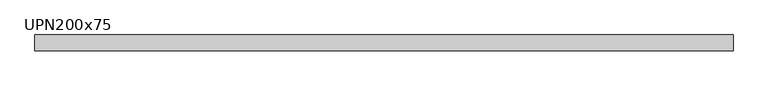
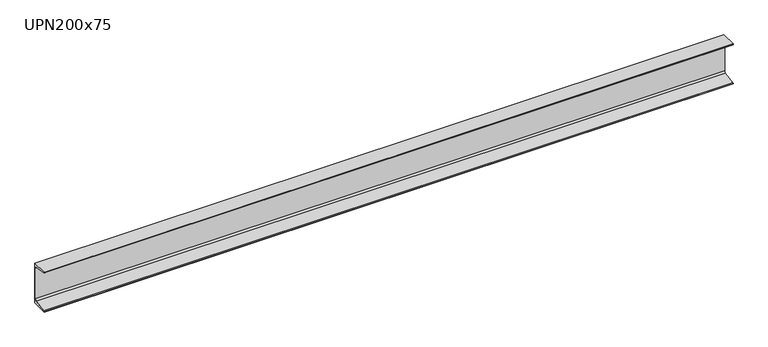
"""IFC4 building model written with IfcOpenShell, lengths in millimetres: beam geometry, M_MC Shapes : UPN200x75."""

import ifcopenshell
import ifcopenshell.guid

model = None  # the IFC model being written
_history = None  # IfcOwnerHistory: only IFC2X3 demands one
_inside = {}  # id of a spatial element -> (the spatial element, [elements in it])
_under = {}  # id of a project, library or spatial element -> (it, [spatial elements below it])
_declared = {}  # id of a project -> (the project, [libraries it declares])
_typed = {}  # id of a type object -> (the type object, [elements of that type])
_made_of = {}  # id of a material, layer set ... -> (it, [elements and type objects made of it])


def new_model(schema):
    """Start an empty IFC model of exactly this schema.

    Asked for "IFC4X3", IfcOpenShell would pick the latest addendum, in which some entities
    have other attributes; the version numbers below select the first issue.
    IFC2X3 requires an IfcOwnerHistory on every rooted entity: one is made here for all.
    """
    global model, _history
    if schema == "IFC4X3":
        model = ifcopenshell.file(schema_version=(4, 3, 0, 0))
    else:
        model = ifcopenshell.file(schema=schema)
    _inside.clear()
    _under.clear()
    _declared.clear()
    _typed.clear()
    _made_of.clear()
    _history = None
    if model.schema == "IFC2X3":
        org = make("IfcOrganization", Name="unknown")
        user = make(
            "IfcPersonAndOrganization",
            ThePerson=make("IfcPerson", FamilyName="unknown"),
            TheOrganization=org,
        )
        app = make(
            "IfcApplication",
            ApplicationDeveloper=org,
            Version="unknown",
            ApplicationFullName="unknown",
            ApplicationIdentifier="unknown",
        )
        _history = make(
            "IfcOwnerHistory",
            OwningUser=user,
            OwningApplication=app,
            ChangeAction="ADDED",
            CreationDate=0,
        )
    return model


def make(cls, **values):
    """One entity of the class cls with the attributes given. An attribute that is None is left unset."""
    return model.create_entity(
        cls, **{name: value for name, value in values.items() if value is not None}
    )


def rooted(cls, **values):
    """An entity with a GlobalId (a new one), such as an element, a storey or a relation."""
    return make(cls, GlobalId=ifcopenshell.guid.new(), OwnerHistory=_history, **values)


def si_unit(unit_type, name, prefix=None):
    """IfcSIUnit, for example si_unit("LENGTHUNIT", "METRE", prefix="MILLI")."""
    return make("IfcSIUnit", UnitType=unit_type, Prefix=prefix, Name=name)


def assignment(units):
    """IfcUnitAssignment: the units of a project."""
    return None if units is None else make("IfcUnitAssignment", Units=units)


def point(xyz):
    """IfcCartesianPoint."""
    return None if xyz is None else make("IfcCartesianPoint", Coordinates=xyz)


def direction(xyz):
    """IfcDirection."""
    return None if xyz is None else make("IfcDirection", DirectionRatios=xyz)


def frame(location, z_axis=None, x_axis=None):
    """IfcAxis2Placement3D, a coordinate frame: its origin and axes. An axis left out is left unset."""
    return make(
        "IfcAxis2Placement3D",
        Location=point(location),
        Axis=direction(z_axis),
        RefDirection=direction(x_axis),
    )


def frame_2d(location, x_axis=None):
    """IfcAxis2Placement2D, a coordinate frame in the plane: its origin and x axis."""
    return make(
        "IfcAxis2Placement2D", Location=point(location), RefDirection=direction(x_axis)
    )


def origin():
    """The frame at (0, 0, 0) with its axes left unset."""
    return frame((0.0, 0.0, 0.0))


def place(relative_to, where):
    """IfcLocalPlacement: puts the frame where relative to a parent placement (None: the world)."""
    return make(
        "IfcLocalPlacement", PlacementRelTo=relative_to, RelativePlacement=where
    )


def context(
    kind, dimensions, precision=None, world=None, true_north=None, identifier=None
):
    """IfcGeometricRepresentationContext, for example the 3D "Model" context."""
    return make(
        "IfcGeometricRepresentationContext",
        ContextIdentifier=identifier,
        ContextType=kind,
        CoordinateSpaceDimension=dimensions,
        Precision=precision,
        WorldCoordinateSystem=world,
        TrueNorth=true_north,
    )


def project(units=None, contexts=None):
    """IfcProject with its units and contexts."""
    return rooted(
        "IfcProject",
        Name="project",
        RepresentationContexts=contexts,
        UnitsInContext=assignment(units),
    )


def spatial(cls, under=None, at=None, **own):
    """A site, building, storey or space (cls), placed at a placement, below another one or the project."""
    s = rooted(cls, ObjectPlacement=at, **own)
    if under is not None:
        _under.setdefault(under.id(), (under, []))[1].append(s)
    return s


def polyline(points):
    """IfcPolyline through the points."""
    return make("IfcPolyline", Points=[point(p) for p in points])


def circle_curve(where, radius):
    """IfcCircle in the frame where."""
    return make("IfcCircle", Position=where, Radius=radius)


def trimmed(basis, trim1, trim2, sense, master):
    """IfcTrimmedCurve: the piece of a basis curve between two trims."""
    return make(
        "IfcTrimmedCurve",
        BasisCurve=basis,
        Trim1=trim1,
        Trim2=trim2,
        SenseAgreement=sense,
        MasterRepresentation=master,
    )


def segment(curve, same_sense, transition):
    """IfcCompositeCurveSegment."""
    return make(
        "IfcCompositeCurveSegment",
        Transition=transition,
        SameSense=same_sense,
        ParentCurve=curve,
    )


def composite_curve(segments, self_intersect=None):
    """IfcCompositeCurve: segments joined end to end."""
    return make("IfcCompositeCurve", Segments=segments, SelfIntersect=self_intersect)


def outline(outer, holes=None, kind="AREA"):
    """IfcArbitraryClosedProfileDef: a profile drawn as a closed curve; with holes, ...WithVoids."""
    if holes is None:
        return make("IfcArbitraryClosedProfileDef", ProfileType=kind, OuterCurve=outer)
    return make(
        "IfcArbitraryProfileDefWithVoids",
        ProfileType=kind,
        OuterCurve=outer,
        InnerCurves=holes,
    )


def extrude(swept, where, along, depth):
    """IfcExtrudedAreaSolid: the profile swept, set in the frame where, extruded along a direction by depth."""
    return make(
        "IfcExtrudedAreaSolid",
        SweptArea=swept,
        Position=where,
        ExtrudedDirection=direction(along),
        Depth=depth,
    )


def shape(context_of_items, identifier, shape_type, items):
    """IfcShapeRepresentation: the items that make up one representation, for example the "Body"."""
    return make(
        "IfcShapeRepresentation",
        ContextOfItems=context_of_items,
        RepresentationIdentifier=identifier,
        RepresentationType=shape_type,
        Items=items,
    )


def source(mapping_origin, context_of_items, identifier, shape_type, items):
    """IfcRepresentationMap: a shape defined once, which mapped items show again and again."""
    return make(
        "IfcRepresentationMap",
        MappingOrigin=mapping_origin,
        MappedRepresentation=shape(context_of_items, identifier, shape_type, items),
    )


def transform(
    local_origin,
    x_axis=None,
    y_axis=None,
    z_axis=None,
    scale=None,
    scale2=None,
    scale3=None,
    uniform=True,
):
    """IfcCartesianTransformationOperator3D, or its non-uniform kind. x_axis, y_axis, z_axis: its Axis1, 2, 3."""
    if uniform:
        return make(
            "IfcCartesianTransformationOperator3D",
            Axis1=direction(x_axis),
            Axis2=direction(y_axis),
            LocalOrigin=point(local_origin),
            Scale=scale,
            Axis3=direction(z_axis),
        )
    return make(
        "IfcCartesianTransformationOperator3DnonUniform",
        Axis1=direction(x_axis),
        Axis2=direction(y_axis),
        LocalOrigin=point(local_origin),
        Scale=scale,
        Axis3=direction(z_axis),
        Scale2=scale2,
        Scale3=scale3,
    )


def mapped(mapping_source, mapping_target):
    """IfcMappedItem: shows the shape of a source again, moved by a transform."""
    return make(
        "IfcMappedItem", MappingSource=mapping_source, MappingTarget=mapping_target
    )


def made_of(thing, what):
    """Note that an element or type object is made of a material, layer set ...; save() writes the relation."""
    if what is not None:
        _made_of.setdefault(what.id(), (what, []))[1].append(thing)
    return thing


def element(
    cls,
    number,
    at=None,
    inside=None,
    cuts=None,
    type_object=None,
    material=None,
    context=None,
    identifier="Body",
    shape_type=None,
    held_by="IfcProductDefinitionShape",
    body=None,
    shapes=None,
    **own,
):
    """One element of the class cls, such as IfcWall. Its Tag is "e" and its number.

    at: its placement. inside: the storey or other place that contains it. cuts: it is an
    opening in that element (IfcRelVoidsElement). A single representation is given by context,
    identifier, shape_type and body (its items); several are given by shapes. held_by: the class
    of the entity that holds the representations. save() writes the other relations.
    """
    e = rooted(cls, Tag="e%d" % number, ObjectPlacement=at, **own)
    if body is not None:
        shapes = [shape(context, identifier, shape_type, body)]
    if shapes is not None:
        e.Representation = make(held_by, Representations=shapes)
    if inside is not None:
        _inside.setdefault(inside.id(), (inside, []))[1].append(e)
    if cuts is not None:
        rooted(
            "IfcRelVoidsElement", RelatingBuildingElement=cuts, RelatedOpeningElement=e
        )
    if type_object is not None:
        _typed.setdefault(type_object.id(), (type_object, []))[1].append(e)
    return made_of(e, material)


def aggregate(whole, parts):
    """IfcRelAggregates: a whole, such as a stair, and the parts it consists of."""
    return rooted("IfcRelAggregates", RelatingObject=whole, RelatedObjects=parts)


def save(model, path):
    """Write the relations noted so far, then the file.

    IfcRelAggregates (storeys below a building ...), IfcRelContainedInSpatialStructure (elements
    in a storey), IfcRelDefinesByType, IfcRelAssociatesMaterial and IfcRelDeclares: one each for
    every whole, place, type object, material and project.
    """
    for whole, parts in _under.values():
        aggregate(whole, parts)
    for where, things in _inside.values():
        rooted(
            "IfcRelContainedInSpatialStructure",
            RelatedElements=things,
            RelatingStructure=where,
        )
    for kind, things in _typed.values():
        rooted("IfcRelDefinesByType", RelatedObjects=things, RelatingType=kind)
    for what, things in _made_of.values():
        rooted("IfcRelAssociatesMaterial", RelatedObjects=things, RelatingMaterial=what)
    for by, libraries in _declared.values():
        rooted("IfcRelDeclares", RelatingContext=by, RelatedDefinitions=libraries)
    model.write(path)


def upn200x75_e6c17937(model_context):
    return source(origin(), model_context, "Body", "SweptSolid", [
        extrude(outline(composite_curve([segment(polyline([(10.9, 100.0), (10.9, -100.0), (-64.1, -100.0), (-64.1, -99.0253247)]), True, "CONTINUOUS"), segment(trimmed(circle_curve(frame_2d((-60.15, -99.0253247)), 3.95), [point((-64.1, -99.0253247))], [point((-60.7993773, -95.1290689))], False, "CARTESIAN"), True, "CONTINUOUS"), segment(polyline([(-60.7993773, -95.1290689), (-0.2512455, -85.0376935)]), True, "CONTINUOUS"), segment(trimmed(circle_curve(frame_2d((-1.55, -77.2451819)), 7.9), [point((-0.2512455, -85.0376935))], [point((6.35, -77.2451819))], True, "CARTESIAN"), True, "CONTINUOUS"), segment(polyline([(6.35, -77.2451819), (6.35, 77.2451819)]), True, "CONTINUOUS"), segment(trimmed(circle_curve(frame_2d((-1.55, 77.2451819)), 7.9), [point((6.35, 77.2451819))], [point((-0.2512455, 85.0376935))], True, "CARTESIAN"), True, "CONTINUOUS"), segment(polyline([(-0.2512455, 85.0376935), (-60.7993773, 95.1290689)]), True, "CONTINUOUS"), segment(trimmed(circle_curve(frame_2d((-60.15, 99.0253247)), 3.95), [point((-60.7993773, 95.1290689))], [point((-64.1, 99.0253247))], False, "CARTESIAN"), True, "CONTINUOUS"), segment(polyline([(-64.1, 99.0253247), (-64.1, 100.0), (10.9, 100.0)]), True, "CONTINUOUS")], self_intersect=False)), frame((-1822.55, 0.0, 0.0), z_axis=(1.0, 0.0, 0.0), x_axis=(0.0, 1.0, 0.0)), (0.0, 0.0, 1.0), 3267.5),
    ])


if __name__ == "__main__":
    model = new_model("IFC4")
    model_context = context("Model", 3, world=origin())
    ifc_project = project(units=[si_unit("LENGTHUNIT", "METRE", prefix="MILLI")], contexts=[model_context])
    site = spatial("IfcSite", under=ifc_project)
    building = spatial("IfcBuilding", under=site)
    placement = place(None, origin())
    upn200x75_shape = upn200x75_e6c17937(model_context)
    element("IfcBeam", 1, ObjectType="M_MC Shapes : UPN200x75", at=placement, inside=building, context=model_context, shape_type="MappedRepresentation", body=[
        mapped(upn200x75_shape, transform((0.0, 0.0, 0.0), x_axis=(1.0, 0.0, 0.0), y_axis=(0.0, 1.0, 0.0), z_axis=(0.0, 0.0, 1.0))),
    ])
    save(model, "model.ifc")
